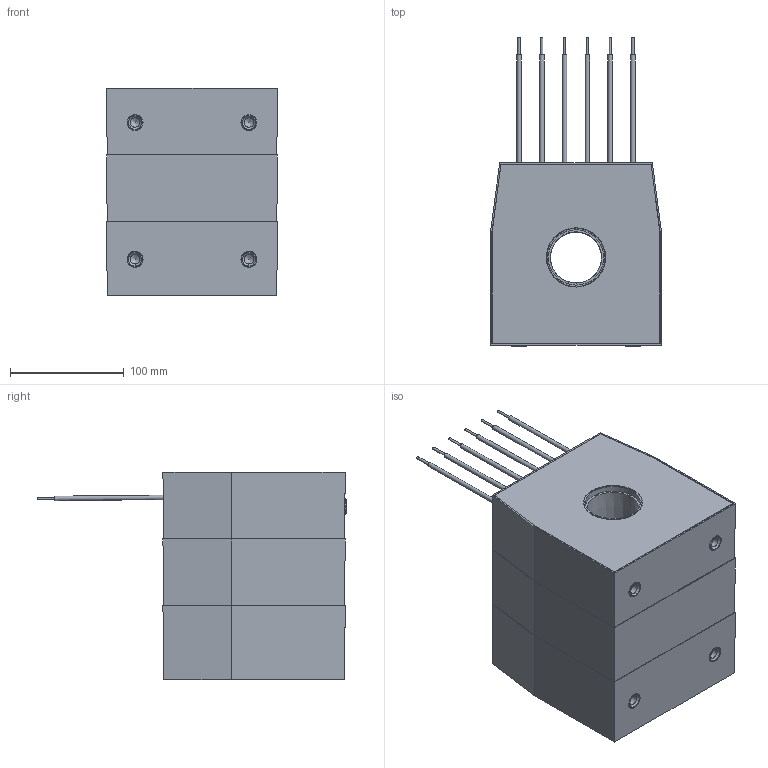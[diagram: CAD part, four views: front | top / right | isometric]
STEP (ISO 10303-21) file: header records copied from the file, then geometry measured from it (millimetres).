
FILE_DESCRIPTION(('STEP AP203'), '1');
FILE_NAME('Ñáîðêà ÒØÏ-ÍÒÇ-0,66-63Ñ (45 ìì, 3-é ãàáàðèò)', '2025-04-16T04:52:42', ('UNSPECIFIED'), ('UNSPECIFIED'), 'ASCON STEP Converter 1.3', 'ASCON Math Kernel', '');
FILE_SCHEMA(('CONFIG_CONTROL_DESIGN'));
Length unit declared in the file: millimetre
Assembly tree (17 placements, depth 2):
  (unnamed)
    (unnamed)
    (unnamed)
    (unnamed)
    (unnamed)  x3
    (unnamed)  x4
    (unnamed)
    (unnamed)  x6
Bounding box: 150 x 270.65 x 182 mm (x, y, z)
Volume: 630787.6 mm3; surface area: 408784.1 mm2
Topology: 17 solids, 17 shells, 262 faces, 570 edges, 370 vertices
Faces by surface type: plane 158, cylinder 71, cone 25, torus 8
Full cylindrical faces by diameter (mm): 2 x6, 3.9 x6, 4 x10, 6 x8, 8.376 x4, 14 x8, 17 x4, 45 x1, 48.599 x6, 48.6 x1, 51 x1, 55.05 x1, 58.6 x1, 65.05 x1, 68.6 x1
Entity records: 7460 total; most frequent: CARTESIAN_POINT 977, DIRECTION 892, ORIENTED_EDGE 810, EDGE_CURVE 405, LINE 300, VECTOR 300, VERTEX_POINT 297, AXIS2_PLACEMENT_3D 296
